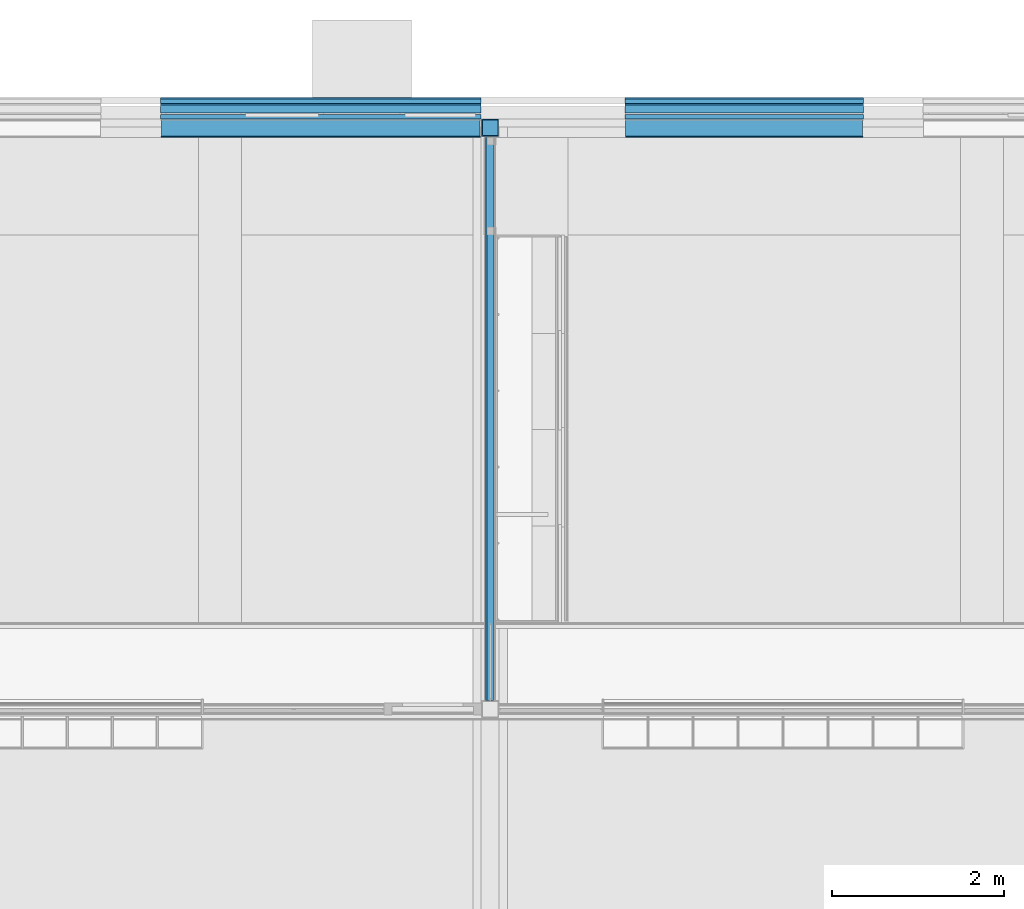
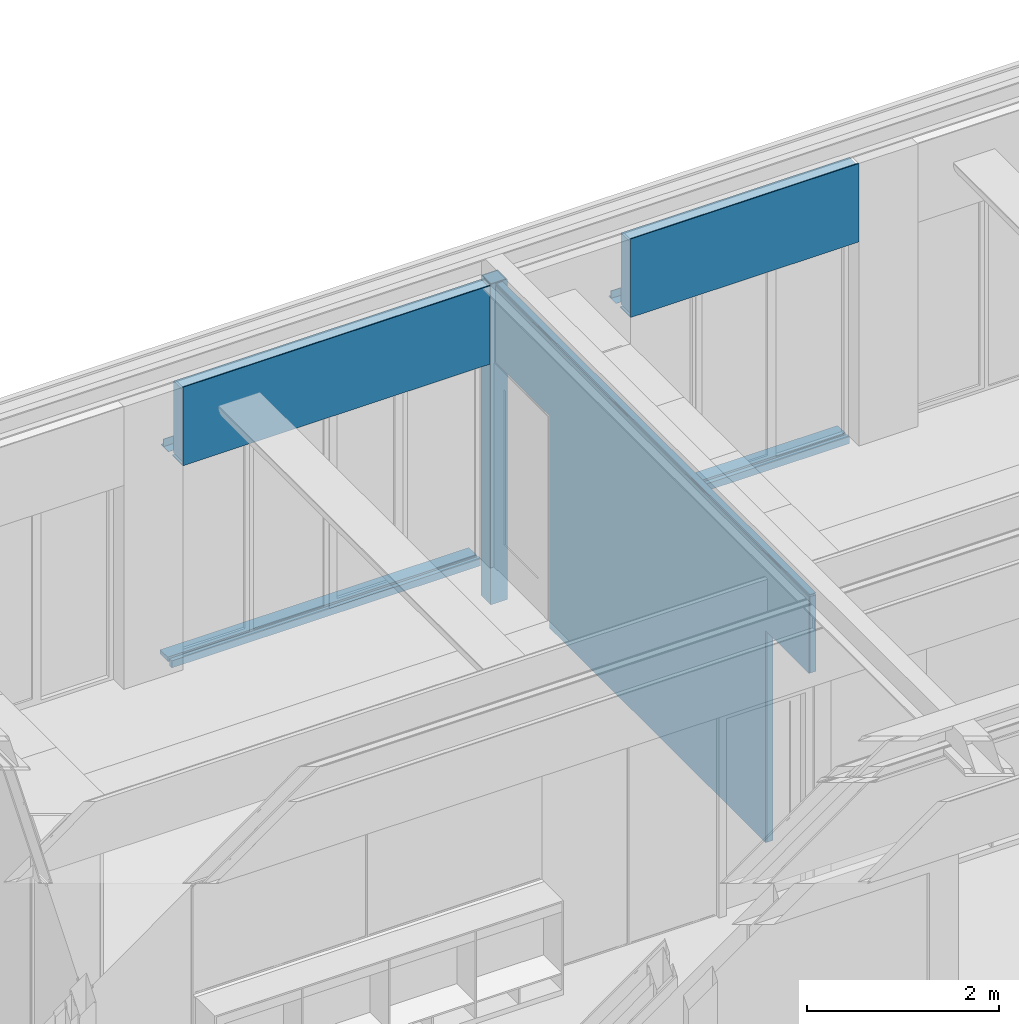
# One storey, part 96 of 165: 18 building element parts, 2 openings, 8 elements without a shape of their own.
"""IFC2X3 building model written with IfcOpenShell, lengths in millimetres."""

import ifcopenshell
import ifcopenshell.guid

model = None  # the IFC model being written
_history = None  # IfcOwnerHistory: only IFC2X3 demands one
_inside = {}  # id of a spatial element -> (the spatial element, [elements in it])
_under = {}  # id of a project, library or spatial element -> (it, [spatial elements below it])
_declared = {}  # id of a project -> (the project, [libraries it declares])
_typed = {}  # id of a type object -> (the type object, [elements of that type])
_made_of = {}  # id of a material, layer set ... -> (it, [elements and type objects made of it])


def new_model(schema):
    """Start an empty IFC model of exactly this schema.

    Asked for "IFC4X3", IfcOpenShell would pick the latest addendum, in which some entities
    have other attributes; the version numbers below select the first issue.
    IFC2X3 requires an IfcOwnerHistory on every rooted entity: one is made here for all.
    """
    global model, _history
    if schema == "IFC4X3":
        model = ifcopenshell.file(schema_version=(4, 3, 0, 0))
    else:
        model = ifcopenshell.file(schema=schema)
    _inside.clear()
    _under.clear()
    _declared.clear()
    _typed.clear()
    _made_of.clear()
    _history = None
    if model.schema == "IFC2X3":
        org = make("IfcOrganization", Name="unknown")
        user = make(
            "IfcPersonAndOrganization",
            ThePerson=make("IfcPerson", FamilyName="unknown"),
            TheOrganization=org,
        )
        app = make(
            "IfcApplication",
            ApplicationDeveloper=org,
            Version="unknown",
            ApplicationFullName="unknown",
            ApplicationIdentifier="unknown",
        )
        _history = make(
            "IfcOwnerHistory",
            OwningUser=user,
            OwningApplication=app,
            ChangeAction="ADDED",
            CreationDate=0,
        )
    return model


def make(cls, **values):
    """One entity of the class cls with the attributes given. An attribute that is None is left unset."""
    return model.create_entity(
        cls, **{name: value for name, value in values.items() if value is not None}
    )


def entity(cls, *values):
    """Any entity or typed value of the class cls, its attributes in the order of the schema. None: left unset."""
    e = model.create_entity(cls)
    for i, value in enumerate(values):
        if value is not None:
            e[i] = value
    return e


def rooted(cls, **values):
    """An entity with a GlobalId (a new one), such as an element, a storey or a relation."""
    return make(cls, GlobalId=ifcopenshell.guid.new(), OwnerHistory=_history, **values)


def si_unit(unit_type, name, prefix=None):
    """IfcSIUnit, for example si_unit("LENGTHUNIT", "METRE", prefix="MILLI")."""
    return make("IfcSIUnit", UnitType=unit_type, Prefix=prefix, Name=name)


def converted_unit(unit_type, name, factor, base, dimensions=None, offset=None):
    """IfcConversionBasedUnit, such as the inch: factor (a typed value) times the base unit."""
    return make(
        "IfcConversionBasedUnit"
        if offset is None
        else "IfcConversionBasedUnitWithOffset",
        ConversionOffset=offset,
        Dimensions=None
        if dimensions is None
        else entity("IfcDimensionalExponents", *dimensions),
        UnitType=unit_type,
        Name=name,
        ConversionFactor=make(
            "IfcMeasureWithUnit", ValueComponent=factor, UnitComponent=base
        ),
    )


def derived_unit(unit_type, elements):
    """IfcDerivedUnit: a product of units, each with its exponent."""
    return make(
        "IfcDerivedUnit",
        Elements=[
            make("IfcDerivedUnitElement", Unit=unit, Exponent=power)
            for unit, power in elements
        ],
        UnitType=unit_type,
    )


def money_unit(currency):
    """IfcMonetaryUnit."""
    return make("IfcMonetaryUnit", Currency=currency)


def assignment(units):
    """IfcUnitAssignment: the units of a project."""
    return None if units is None else make("IfcUnitAssignment", Units=units)


def point(xyz):
    """IfcCartesianPoint."""
    return None if xyz is None else make("IfcCartesianPoint", Coordinates=xyz)


def direction(xyz):
    """IfcDirection."""
    return None if xyz is None else make("IfcDirection", DirectionRatios=xyz)


def frame(location, z_axis=None, x_axis=None):
    """IfcAxis2Placement3D, a coordinate frame: its origin and axes. An axis left out is left unset."""
    return make(
        "IfcAxis2Placement3D",
        Location=point(location),
        Axis=direction(z_axis),
        RefDirection=direction(x_axis),
    )


def origin_with_axes():
    """The frame at (0, 0, 0) with the z axis (0, 0, 1) and the x axis (1, 0, 0) written out."""
    return frame((0.0, 0.0, 0.0), z_axis=(0.0, 0.0, 1.0), x_axis=(1.0, 0.0, 0.0))


def place(relative_to, where):
    """IfcLocalPlacement: puts the frame where relative to a parent placement (None: the world)."""
    return make(
        "IfcLocalPlacement", PlacementRelTo=relative_to, RelativePlacement=where
    )


def context(
    kind, dimensions, precision=None, world=None, true_north=None, identifier=None
):
    """IfcGeometricRepresentationContext, for example the 3D "Model" context."""
    return make(
        "IfcGeometricRepresentationContext",
        ContextIdentifier=identifier,
        ContextType=kind,
        CoordinateSpaceDimension=dimensions,
        Precision=precision,
        WorldCoordinateSystem=world,
        TrueNorth=true_north,
    )


def subcontext(parent, identifier, kind, view, scale=None):
    """IfcGeometricRepresentationSubContext, for example "Body" below "Model"."""
    return make(
        "IfcGeometricRepresentationSubContext",
        ContextIdentifier=identifier,
        ContextType=kind,
        ParentContext=parent,
        TargetScale=scale,
        TargetView=view,
    )


def project(units=None, contexts=None):
    """IfcProject with its units and contexts."""
    return rooted(
        "IfcProject",
        Name="project",
        RepresentationContexts=contexts,
        UnitsInContext=assignment(units),
    )


def spatial(cls, under=None, at=None, **own):
    """A site, building, storey or space (cls), placed at a placement, below another one or the project."""
    s = rooted(cls, ObjectPlacement=at, **own)
    if under is not None:
        _under.setdefault(under.id(), (under, []))[1].append(s)
    return s


def faces_of(points, faces, orient=None, outer=None):
    """IfcFace entities. A face is a list of loops; a loop is a list of indices into points, from 0.

    orient and outer hold one flag for each loop. By default every Orientation is true, the
    first loop of a face is its IfcFaceOuterBound and the others are IfcFaceBound.
    """
    made = []
    for i, loops in enumerate(faces):
        bounds = []
        for j, loop in enumerate(loops):
            is_outer = j == 0 if outer is None else outer[i][j]
            bounds.append(
                make(
                    "IfcFaceOuterBound" if is_outer else "IfcFaceBound",
                    Bound=make("IfcPolyLoop", Polygon=[points[k] for k in loop]),
                    Orientation=True if orient is None else orient[i][j],
                )
            )
        made.append(make("IfcFace", Bounds=bounds))
    return made


def faceted_brep(points, faces, orient=None, outer=None, voids=None):
    """IfcFacetedBrep: a solid bounded by flat faces; with voids (closed shells), ...WithVoids."""
    shared = [point(p) for p in points]
    hull = make("IfcClosedShell", CfsFaces=faces_of(shared, faces, orient, outer))
    if voids is None:
        return make("IfcFacetedBrep", Outer=hull)
    return make(
        "IfcFacetedBrepWithVoids",
        Outer=hull,
        Voids=[
            make(cls, CfsFaces=faces_of(shared, fs, o, b)) for cls, fs, o, b in voids
        ],
    )


def shape(context_of_items, identifier, shape_type, items):
    """IfcShapeRepresentation: the items that make up one representation, for example the "Body"."""
    return make(
        "IfcShapeRepresentation",
        ContextOfItems=context_of_items,
        RepresentationIdentifier=identifier,
        RepresentationType=shape_type,
        Items=items,
    )


def material(Name=None, Category=None):
    """IfcMaterial."""
    return make("IfcMaterial", Name=Name, Category=Category)


def made_of(thing, what):
    """Note that an element or type object is made of a material, layer set ...; save() writes the relation."""
    if what is not None:
        _made_of.setdefault(what.id(), (what, []))[1].append(thing)
    return thing


def type_object(cls, material=None, **own):
    """A type object (cls), such as IfcWallType, which elements share."""
    return made_of(rooted(cls, **own), material)


def element(
    cls,
    number,
    at=None,
    inside=None,
    cuts=None,
    type_object=None,
    material=None,
    context=None,
    identifier="Body",
    shape_type=None,
    held_by="IfcProductDefinitionShape",
    body=None,
    shapes=None,
    **own,
):
    """One element of the class cls, such as IfcWall. Its Tag is "e" and its number.

    at: its placement. inside: the storey or other place that contains it. cuts: it is an
    opening in that element (IfcRelVoidsElement). A single representation is given by context,
    identifier, shape_type and body (its items); several are given by shapes. held_by: the class
    of the entity that holds the representations. save() writes the other relations.
    """
    e = rooted(cls, Tag="e%d" % number, ObjectPlacement=at, **own)
    if body is not None:
        shapes = [shape(context, identifier, shape_type, body)]
    if shapes is not None:
        e.Representation = make(held_by, Representations=shapes)
    if inside is not None:
        _inside.setdefault(inside.id(), (inside, []))[1].append(e)
    if cuts is not None:
        rooted(
            "IfcRelVoidsElement", RelatingBuildingElement=cuts, RelatedOpeningElement=e
        )
    if type_object is not None:
        _typed.setdefault(type_object.id(), (type_object, []))[1].append(e)
    return made_of(e, material)


def aggregate(whole, parts):
    """IfcRelAggregates: a whole, such as a stair, and the parts it consists of."""
    return rooted("IfcRelAggregates", RelatingObject=whole, RelatedObjects=parts)


def save(model, path):
    """Write the relations noted so far, then the file.

    IfcRelAggregates (storeys below a building ...), IfcRelContainedInSpatialStructure (elements
    in a storey), IfcRelDefinesByType, IfcRelAssociatesMaterial and IfcRelDeclares: one each for
    every whole, place, type object, material and project.
    """
    for whole, parts in _under.values():
        aggregate(whole, parts)
    for where, things in _inside.values():
        rooted(
            "IfcRelContainedInSpatialStructure",
            RelatedElements=things,
            RelatingStructure=where,
        )
    for kind, things in _typed.values():
        rooted("IfcRelDefinesByType", RelatedObjects=things, RelatingType=kind)
    for what, things in _made_of.values():
        rooted("IfcRelAssociatesMaterial", RelatedObjects=things, RelatingMaterial=what)
    for by, libraries in _declared.values():
        rooted("IfcRelDeclares", RelatingContext=by, RelatedDefinitions=libraries)
    model.write(path)


model = new_model("IFC2X3")

# Units and contexts
model_context = context("Model", 3, precision=0.01, world=origin_with_axes(), true_north=direction((0.0, 1.0)))
body_context = subcontext(model_context, "Body", "Model", "MODEL_VIEW")
ifc_project = project(units=[si_unit("LENGTHUNIT", "METRE", prefix="MILLI"), si_unit("AREAUNIT", "SQUARE_METRE"), si_unit("VOLUMEUNIT", "CUBIC_METRE"), converted_unit("PLANEANGLEUNIT", "DEGREE", entity("IfcPlaneAngleMeasure", 0.0174532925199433), si_unit("PLANEANGLEUNIT", "RADIAN"), dimensions=[0, 0, 0, 0, 0, 0, 0]), money_unit("EUR"), converted_unit("TIMEUNIT", "Year", entity("IfcTimeMeasure", 31556926.0), si_unit("TIMEUNIT", "SECOND"), dimensions=[0, 0, 1, 0, 0, 0, 0]), si_unit("MASSUNIT", "GRAM", prefix="KILO"), si_unit("THERMODYNAMICTEMPERATUREUNIT", "DEGREE_CELSIUS"), si_unit("LUMINOUSINTENSITYUNIT", "LUMEN"), si_unit("ENERGYUNIT", "JOULE", prefix="MEGA"), derived_unit("THERMALCONDUCTANCEUNIT", [(si_unit("POWERUNIT", "WATT"), 1), (si_unit("LENGTHUNIT", "METRE"), -1), (si_unit("THERMODYNAMICTEMPERATUREUNIT", "KELVIN"), -1)]), derived_unit("SPECIFICHEATCAPACITYUNIT", [(si_unit("ENERGYUNIT", "JOULE"), 1), (si_unit("MASSUNIT", "GRAM", prefix="KILO"), -1), (si_unit("THERMODYNAMICTEMPERATUREUNIT", "KELVIN"), -1)]), derived_unit("MASSDENSITYUNIT", [(si_unit("MASSUNIT", "GRAM", prefix="KILO"), 1), (si_unit("VOLUMEUNIT", "CUBIC_METRE"), -1)])], contexts=[model_context])

# Site, building, storey
site_placement = place(None, origin_with_axes())
site = spatial("IfcSite", under=ifc_project, at=site_placement, Name="Site", CompositionType="ELEMENT")
building_placement = place(site_placement, origin_with_axes())
building = spatial("IfcBuilding", under=site, at=building_placement, Name="Naam gebouw", CompositionType="ELEMENT")
storey_placement = place(building_placement, origin_with_axes())
storey = spatial("IfcBuildingStorey", under=building, at=storey_placement, Name="Begane grond", CompositionType="ELEMENT", Elevation=0.0)

# Proxy, openings, building element parts
building_element_proxy_type = type_object("IfcBuildingElementProxyType", Name="22 Metal stud 125 gips 125", PredefinedType="NOTDEFINED")
proxy_placement = place(storey_placement, frame((17699.99942456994, 29175.0, -100.0), z_axis=(0.0, 0.0, 1.0), x_axis=(0.0, -1.0, 0.0)))
proxy = element("IfcBuildingElementProxy", 1, at=proxy_placement, inside=storey, type_object=building_element_proxy_type, Name="_Wand-x")
opening_1_placement = place(proxy_placement, frame((778.9999999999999, 0.0, 100.0), z_axis=(0.0, 0.0, 1.0), x_axis=(1.0, 0.0, 0.0)))
element("IfcOpeningElement", 2, at=opening_1_placement, cuts=proxy, Name="_01.01", context=body_context, shape_type="Brep", body=[
    faceted_brep([(565.0000000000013, 63.50000000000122, 2600.0), (565.0000000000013, 63.50000000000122, -100.0000000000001), (-565.0000000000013, 63.50000000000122, -100.0000000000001), (-565.0000000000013, 63.50000000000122, 2600.0), (565.0000000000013, -63.50000000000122, 2600.0), (565.0000000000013, -63.50000000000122, -100.0000000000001), (-565.0000000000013, -63.50000000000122, -100.0000000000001), (-565.0000000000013, -63.50000000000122, 2600.0)], [[[0, 1, 2, 3]], [[4, 5, 1, 0]], [[5, 6, 2, 1]], [[6, 7, 3, 2]], [[7, 4, 0, 3]], [[6, 5, 4, 7]]]),
])
opening_2_placement = place(proxy_placement, frame((6300.00015292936, 0.0, 100.0), z_axis=(0.0, 0.0, 1.0), x_axis=(1.0, 0.0, 0.0)))
element("IfcOpeningElement", 3, at=opening_2_placement, cuts=proxy, Name="_B.02", context=body_context, shape_type="Brep", body=[
    faceted_brep([(-449.9999999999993, 12.49999999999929, -100.0000000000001), (-449.9999999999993, 12.49999999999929, 2600.0), (-449.9999999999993, 63.50000000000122, 2600.0), (-449.9999999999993, 63.50000000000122, -100.0000000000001), (-449.9999999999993, -63.50000000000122, -100.0000000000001), (-449.9999999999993, -63.50000000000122, 2600.0), (449.9999999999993, 12.49999999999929, 2600.0), (449.9999999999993, 63.50000000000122, 2600.0), (449.9999999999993, -63.50000000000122, 2600.0), (449.9999999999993, 63.50000000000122, -100.0000000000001), (449.9999999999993, 12.49999999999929, -100.0000000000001), (449.9999999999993, -63.50000000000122, -100.0000000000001)], [[[0, 1, 2, 3]], [[1, 0, 4, 5]], [[6, 7, 2, 1, 5, 8]], [[7, 9, 3, 2]], [[0, 3, 9, 10, 11, 4]], [[5, 4, 11, 8]], [[6, 10, 9, 7]], [[10, 6, 8, 11]]]),
])
ifc_material_1 = material(Name="Gipsplaat")
building_element_part_1_placement = place(proxy_placement, origin_with_axes())
building_element_part_1 = element("IfcBuildingElementPart", 4, at=building_element_part_1_placement, material=ifc_material_1, Name="Gipsplaat", context=body_context, shape_type="Brep", body=[
    faceted_brep([(1344.000000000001, -37.50000000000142, 0.0), (1344.000000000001, -37.50000000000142, 2700.0), (213.9999999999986, -37.50000000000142, 2700.0), (213.9999999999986, -37.50000000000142, 3675.000002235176), (6750.00015292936, -37.50000000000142, 3675.000002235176), (6750.00015292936, -37.50000000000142, 2700.0), (5850.000152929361, -37.50000000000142, 2700.0), (5850.000152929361, -37.50000000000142, 0.0), (1344.000000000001, -50.00000000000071, 0.0), (1344.000000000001, -50.00000000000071, 2700.0), (213.9999999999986, -50.00000000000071, 2700.0), (213.9999999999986, -50.00000000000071, 3675.000002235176), (6750.00015292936, -50.00000000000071, 3675.000002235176), (6750.00015292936, -50.00000000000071, 2700.0), (5850.000152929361, -50.00000000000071, 2700.0), (5850.000152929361, -50.00000000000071, 0.0)], [[[0, 1, 2, 3, 4, 5, 6, 7]], [[1, 0, 8, 9]], [[10, 2, 1, 9]], [[2, 10, 11, 3]], [[3, 11, 12, 4]], [[5, 4, 12, 13]], [[5, 13, 14, 6]], [[6, 14, 15, 7]], [[8, 0, 7, 15]], [[9, 8, 15, 14, 13, 12, 11, 10]]]),
    faceted_brep([(6750.00015292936, -50.00000000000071, 3699.999999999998), (6750.00015292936, -37.50000000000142, 3699.999999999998), (213.9999999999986, -37.50000000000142, 3700.0), (213.9999999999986, -50.00000000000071, 3700.0), (6750.00015292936, -37.50000000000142, 3695.000002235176), (6750.00015292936, -50.00000000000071, 3695.000002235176), (213.9999999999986, -37.50000000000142, 3695.000002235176), (213.9999999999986, -50.00000000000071, 3695.000002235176)], [[[0, 1, 2, 3]], [[4, 1, 0, 5]], [[1, 4, 6, 2]], [[2, 6, 7, 3]], [[5, 0, 3, 7]], [[4, 5, 7, 6]]]),
])
ifc_material_2 = material(Name="ALG - LICHTE SCHEIDINGSWAND")
building_element_part_2_placement = place(proxy_placement, origin_with_axes())
building_element_part_2 = element("IfcBuildingElementPart", 5, at=building_element_part_2_placement, material=ifc_material_2, Name="ALG - LICHTE SCHEIDINGSWAND", context=body_context, shape_type="Brep", body=[
    faceted_brep([(1344.000000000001, 37.50000000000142, 0.0), (1344.000000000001, 37.50000000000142, 2700.0), (213.9999999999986, 37.50000000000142, 2700.0), (213.9999999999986, 37.50000000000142, 3675.000002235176), (6750.00015292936, 37.49999999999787, 3675.000002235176), (6750.00015292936, 37.49999999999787, 2700.0), (5850.000152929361, 37.49999999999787, 2700.0), (5850.000152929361, 37.49999999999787, 0.0), (1344.000000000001, -37.50000000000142, 0.0), (1344.000000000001, -37.50000000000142, 2700.0), (213.9999999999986, -37.50000000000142, 2700.0), (213.9999999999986, -37.50000000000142, 3675.000002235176), (6750.00015292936, -37.50000000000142, 3675.000002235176), (6750.00015292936, -37.50000000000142, 2700.0), (5850.000152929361, -37.50000000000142, 2700.0), (5850.000152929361, -37.50000000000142, 0.0)], [[[0, 1, 2, 3, 4, 5, 6, 7]], [[1, 0, 8, 9]], [[10, 2, 1, 9]], [[2, 10, 11, 3]], [[11, 12, 4, 3]], [[5, 4, 12, 13]], [[14, 6, 5, 13]], [[15, 7, 6, 14]], [[8, 0, 7, 15]], [[9, 8, 15, 14, 13, 12, 11, 10]]]),
    faceted_brep([(6750.00015292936, -37.50000000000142, 3699.999999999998), (6750.00015292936, 37.49999999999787, 3699.999999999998), (213.9999999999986, 37.50000000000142, 3700.0), (213.9999999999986, -37.50000000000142, 3700.0), (6750.00015292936, 37.49999999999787, 3695.000002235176), (6750.00015292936, -37.50000000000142, 3695.000002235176), (213.9999999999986, 37.50000000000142, 3695.000002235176), (213.9999999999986, -37.50000000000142, 3695.000002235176)], [[[0, 1, 2, 3]], [[4, 1, 0, 5]], [[1, 4, 6, 2]], [[2, 6, 7, 3]], [[5, 0, 3, 7]], [[4, 5, 7, 6]]]),
])
aggregate(proxy, [building_element_part_1, building_element_part_2])

# Column, building element parts
column_type = type_object("IfcColumnType", Name="200X200X10 200 x 200", PredefinedType="COLUMN")
column_placement = place(storey_placement, frame((17699.99942456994, 29075.0, -480.0), z_axis=(0.0, 0.0, 1.0), x_axis=(1.0, 0.0, 0.0)))
column = element("IfcColumn", 6, at=column_placement, inside=storey, type_object=column_type, Name="28_Kolom-x", ObjectType="COLUMN")
ifc_material_3 = material(Name="Beton gewapend C")
building_element_part_3_placement = place(column_placement, origin_with_axes())
building_element_part_3 = element("IfcBuildingElementPart", 7, at=building_element_part_3_placement, material=ifc_material_3, Name="Beton gewapend C", context=body_context, shape_type="Brep", body=[
    faceted_brep([(-89.99999999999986, 89.99999999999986, 4055.000002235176), (89.99999999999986, 89.99999999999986, 4055.000002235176), (89.99999999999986, 89.99999999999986, 0.0), (-89.99999999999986, 89.99999999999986, 0.0), (89.99999999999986, -89.99999999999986, 4055.000002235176), (-89.99999999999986, -89.99999999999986, 4055.000002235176), (89.99999999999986, -89.99999999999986, 0.0), (-89.99999999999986, -89.99999999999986, 0.0)], [[[0, 1, 2, 3]], [[4, 1, 0, 5]], [[1, 4, 6, 2]], [[2, 6, 7, 3]], [[5, 0, 3, 7]], [[4, 5, 7, 6]]]),
    faceted_brep([(89.99999999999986, -89.99999999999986, 4075.000002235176), (89.99999999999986, 89.99999999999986, 4075.000002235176), (89.99999999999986, 89.99999999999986, 4079.999999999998), (89.99999999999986, -89.99999999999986, 4079.999999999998), (-89.99999999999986, 89.99999999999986, 4075.000002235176), (-89.99999999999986, -89.99999999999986, 4075.000002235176), (-89.99999999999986, 89.99999999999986, 4079.999999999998), (-89.99999999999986, -89.99999999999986, 4079.999999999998)], [[[0, 1, 2, 3]], [[4, 1, 0, 5]], [[1, 4, 6, 2]], [[2, 6, 7, 3]], [[5, 0, 3, 7]], [[4, 5, 7, 6]]]),
])
ifc_material_4 = material(Name="Metaal - Staal C")
building_element_part_4_placement = place(column_placement, origin_with_axes())
building_element_part_4 = element("IfcBuildingElementPart", 8, at=building_element_part_4_placement, material=ifc_material_4, Name="Metaal - Staal C", context=body_context, shape_type="Brep", body=[
    faceted_brep([(-100.0000000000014, -100.0000000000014, 0.0), (100.0000000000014, -100.0000000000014, 0.0), (100.0000000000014, -100.0000000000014, 4079.999999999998), (-100.0000000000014, -100.0000000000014, 4079.999999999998), (-100.0000000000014, 100.0000000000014, 0.0), (100.0000000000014, 100.0000000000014, 0.0), (-89.99999999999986, -89.99999999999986, 0.0), (89.99999999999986, -89.99999999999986, 0.0), (89.99999999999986, 89.99999999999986, 0.0), (-89.99999999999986, 89.99999999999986, 0.0), (100.0000000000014, 100.0000000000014, 4079.999999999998), (-100.0000000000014, 100.0000000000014, 4079.999999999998), (-89.99999999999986, -89.99999999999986, 4079.999999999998), (-89.99999999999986, 89.99999999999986, 4079.999999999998), (89.99999999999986, 89.99999999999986, 4079.999999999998), (89.99999999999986, -89.99999999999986, 4079.999999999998)], [[[0, 1, 2, 3]], [[0, 4, 5, 1], [6, 7, 8, 9]], [[1, 5, 10, 2]], [[3, 2, 10, 11], [12, 13, 14, 15]], [[4, 0, 3, 11]], [[5, 4, 11, 10]], [[7, 6, 12, 15]], [[8, 7, 15, 14]], [[9, 8, 14, 13]], [[6, 9, 13, 12]]]),
])
aggregate(column, [building_element_part_3, building_element_part_4])

# Beam, building element parts
beam_type_1 = type_object("IfcBeamType", Name="41 Latei/geveldrager 158 x 112", PredefinedType="BEAM")
beam_1_placement = place(storey_placement, frame((19264.99942456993, 29355.0, 2610.0), z_axis=(0.0, 0.0, 1.0), x_axis=(0.0, -1.0, 0.0)))
beam_1 = element("IfcBeam", 9, at=beam_1_placement, inside=storey, type_object=beam_type_1, Name="_Regenwaterafvoer-x", ObjectType="BEAM")
building_element_part_5_placement = place(beam_1_placement, origin_with_axes())
building_element_part_5 = element("IfcBuildingElementPart", 10, at=building_element_part_5_placement, material=ifc_material_4, Name="Metaal - Staal C", context=body_context, shape_type="Brep", body=[
    faceted_brep([(3.000000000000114, 2770.0, -3.000000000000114), (108.0000000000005, 2770.0, -3.000000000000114), (108.0000000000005, 0.0, -3.000000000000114), (3.000000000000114, 0.0, -3.000000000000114), (3.000000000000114, 2770.0, 0.0), (108.0000000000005, 2770.0, 0.0), (108.0000000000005, 0.0, 0.0), (3.000000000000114, 0.0, 0.0)], [[[0, 1, 2, 3]], [[0, 4, 5, 1]], [[1, 5, 6, 2]], [[3, 2, 6, 7]], [[4, 0, 3, 7]], [[5, 4, 7, 6]]]),
])
building_element_part_6_placement = place(beam_1_placement, origin_with_axes())
building_element_part_6 = element("IfcBuildingElementPart", 11, at=building_element_part_6_placement, material=ifc_material_4, Name="Metaal - Staal C", context=body_context, shape_type="Brep", body=[
    faceted_brep([(-50.00000000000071, 2770.0, 6.55651533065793e-07), (-50.00000000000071, 2770.0, -3.000000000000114), (-50.00000000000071, 0.0, -3.000000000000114), (-50.00000000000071, 0.0, 6.55651533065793e-07), (-5.9603877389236e-08, 2770.0, 6.55651533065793e-07), (-5.9603877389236e-08, 2770.0, 99.3417707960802), (16.54654975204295, 2770.0, 108.894926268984), (18.04655007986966, 2770.0, 106.296849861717), (3.000000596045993, 2770.0, 96.99999988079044), (3.000000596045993, 2770.0, 6.55651533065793e-07), (3.000000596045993, 2770.0, -3.000000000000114), (3.000000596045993, 0.0, -3.000000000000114), (3.000000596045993, 0.0, 6.55651533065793e-07), (3.000000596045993, 0.0, 96.99999988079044), (18.04655007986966, 0.0, 106.296849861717), (16.54654975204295, 0.0, 108.894926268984), (-5.9603877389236e-08, 0.0, 99.3417707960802), (-5.9603877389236e-08, 0.0, 6.55651533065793e-07)], [[[0, 1, 2, 3]], [[0, 4, 5, 6, 7, 8, 9, 10, 1]], [[1, 10, 11, 2]], [[3, 2, 11, 12, 13, 14, 15, 16, 17]], [[4, 0, 3, 17]], [[5, 4, 17, 16]], [[6, 5, 16, 15]], [[7, 6, 15, 14]], [[8, 7, 14, 13]], [[9, 8, 13, 12]], [[10, 9, 12, 11]]]),
])
aggregate(beam_1, [building_element_part_5, building_element_part_6])

beam_type_2 = type_object("IfcBeamType", Name="31 Betondorpel 250 x 90", PredefinedType="BEAM")
beam_2_placement = place(storey_placement, frame((19264.99942456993, 29425.0, -100.0000000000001), z_axis=(0.0, 0.0, 1.0), x_axis=(0.0, -1.0, 0.0)))
beam_2 = element("IfcBeam", 12, at=beam_2_placement, inside=storey, type_object=beam_type_2, Name="_Regenwaterafvoer-x", ObjectType="BEAM")
ifc_material_5 = material(Name="Beton gewapend prefab")
building_element_part_7_placement = place(beam_2_placement, origin_with_axes())
building_element_part_7 = element("IfcBuildingElementPart", 13, at=building_element_part_7_placement, material=ifc_material_5, Name="Beton gewapend prefab", context=body_context, shape_type="Brep", body=[
    faceted_brep([(0.0, 2770.0, 30.04212834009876), (169.9999999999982, 2770.0, 30.04212834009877), (170.0000000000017, 0.0, 30.04212834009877), (0.0, 0.0, 30.04212834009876), (0.0, 2770.0, 80.04212834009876), (169.9999999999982, 2770.0, 90.04212834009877), (169.9999999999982, 2770.0, 90.00000000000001), (170.0000000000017, 0.0, 90.00000000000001), (170.0000000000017, 0.0, 90.04212834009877), (0.0, 0.0, 80.04212834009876)], [[[0, 1, 2, 3]], [[0, 4, 5, 6, 1]], [[1, 6, 7, 2]], [[3, 2, 7, 8, 9]], [[4, 0, 3, 9]], [[5, 4, 9, 8]], [[6, 5, 8, 7]]]),
])
ifc_material_6 = material(Name="Isolatie - Kunststof hard")
building_element_part_8_placement = place(beam_2_placement, origin_with_axes())
building_element_part_8 = element("IfcBuildingElementPart", 14, at=building_element_part_8_placement, material=ifc_material_6, Name="Isolatie - Kunststof hard", context=body_context, shape_type="Brep", body=[
    faceted_brep([(199.9999999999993, 2770.0, 0.0), (250.0, 2770.0, 0.0), (250.0, 0.0, 0.0), (199.9999999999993, 0.0, 0.0), (199.9999999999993, 2770.0, 30.04212815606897), (199.9999999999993, 2770.0, 90.00000000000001), (250.0, 2770.0, 90.00000000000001), (250.0, 0.0, 90.00000000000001), (199.9999999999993, 0.0, 90.00000000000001), (199.9999999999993, 0.0, 30.04212815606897)], [[[0, 1, 2, 3]], [[0, 4, 5, 6, 1]], [[1, 6, 7, 2]], [[3, 2, 7, 8, 9]], [[4, 0, 3, 9]], [[5, 4, 9, 8]], [[6, 5, 8, 7]]]),
])
aggregate(beam_2, [building_element_part_7, building_element_part_8])

beam_3_placement = place(storey_placement, frame((13874.99942456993, 29425.0, -100.0000000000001), z_axis=(0.0, 0.0, 1.0), x_axis=(0.0, -1.0, 0.0)))
beam_3 = element("IfcBeam", 15, at=beam_3_placement, inside=storey, type_object=beam_type_2, Name="_Regenwaterafvoer-x", ObjectType="BEAM")
building_element_part_9_placement = place(beam_3_placement, origin_with_axes())
building_element_part_9 = element("IfcBuildingElementPart", 16, at=building_element_part_9_placement, material=ifc_material_6, Name="Isolatie - Kunststof hard", context=body_context, shape_type="Brep", body=[
    faceted_brep([(199.9999999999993, 3720.000000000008, 0.0), (250.0, 3720.000000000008, 0.0), (250.0, 0.0, 0.0), (199.9999999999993, 0.0, 0.0), (199.9999999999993, 3720.000000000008, 30.04212815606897), (199.9999999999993, 3720.000000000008, 90.00000000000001), (250.0, 3720.000000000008, 90.00000000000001), (250.0, 0.0, 90.00000000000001), (199.9999999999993, 0.0, 90.00000000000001), (199.9999999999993, 0.0, 30.04212815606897)], [[[0, 1, 2, 3]], [[0, 4, 5, 6, 1]], [[1, 6, 7, 2]], [[3, 2, 7, 8, 9]], [[4, 0, 3, 9]], [[5, 4, 9, 8]], [[6, 5, 8, 7]]]),
])
building_element_part_10_placement = place(beam_3_placement, origin_with_axes())
building_element_part_10 = element("IfcBuildingElementPart", 17, at=building_element_part_10_placement, material=ifc_material_5, Name="Beton gewapend prefab", context=body_context, shape_type="Brep", body=[
    faceted_brep([(0.0, 3720.000000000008, 30.04212834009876), (169.9999999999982, 3720.000000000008, 30.04212834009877), (170.0000000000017, 0.0, 30.04212834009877), (0.0, 0.0, 30.04212834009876), (0.0, 3720.000000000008, 80.04212834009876), (169.9999999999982, 3720.000000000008, 90.04212834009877), (169.9999999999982, 3720.000000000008, 90.00000000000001), (170.0000000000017, 0.0, 90.00000000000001), (170.0000000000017, 0.0, 90.04212834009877), (0.0, 0.0, 80.04212834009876)], [[[0, 1, 2, 3]], [[0, 4, 5, 6, 1]], [[1, 6, 7, 2]], [[3, 2, 7, 8, 9]], [[4, 0, 3, 9]], [[5, 4, 9, 8]], [[6, 5, 8, 7]]]),
])
aggregate(beam_3, [building_element_part_9, building_element_part_10])

beam_4_placement = place(storey_placement, frame((13874.99942456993, 29355.00000286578, 2610.0), z_axis=(0.0, 0.0, 1.0), x_axis=(0.0, -1.0, 0.0)))
beam_4 = element("IfcBeam", 18, at=beam_4_placement, inside=storey, type_object=beam_type_1, Name="_Regenwaterafvoer-x", ObjectType="BEAM")
building_element_part_11_placement = place(beam_4_placement, origin_with_axes())
building_element_part_11 = element("IfcBuildingElementPart", 19, at=building_element_part_11_placement, material=ifc_material_4, Name="Metaal - Staal C", context=body_context, shape_type="Brep", body=[
    faceted_brep([(-50.00000000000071, 3720.000000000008, 6.55651533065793e-07), (-50.00000000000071, 3720.000000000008, -3.000000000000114), (-50.00000000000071, 0.0, -3.000000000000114), (-50.00000000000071, 0.0, 6.55651533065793e-07), (-5.9603877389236e-08, 3720.000000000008, 6.55651533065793e-07), (-5.9603877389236e-08, 3720.000000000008, 99.3417707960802), (16.54654975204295, 3720.000000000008, 108.894926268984), (18.04655007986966, 3720.000000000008, 106.296849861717), (3.000000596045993, 3720.000000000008, 96.99999988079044), (3.000000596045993, 3720.000000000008, 6.55651533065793e-07), (3.000000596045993, 3720.000000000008, -3.000000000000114), (3.000000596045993, 0.0, -3.000000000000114), (3.000000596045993, 0.0, 6.55651533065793e-07), (3.000000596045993, 0.0, 96.99999988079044), (18.04655007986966, 0.0, 106.296849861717), (16.54654975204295, 0.0, 108.894926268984), (-5.9603877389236e-08, 0.0, 99.3417707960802), (-5.9603877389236e-08, 0.0, 6.55651533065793e-07)], [[[0, 1, 2, 3]], [[0, 4, 5, 6, 7, 8, 9, 10, 1]], [[1, 10, 11, 2]], [[3, 2, 11, 12, 13, 14, 15, 16, 17]], [[4, 0, 3, 17]], [[5, 4, 17, 16]], [[6, 5, 16, 15]], [[7, 6, 15, 14]], [[8, 7, 14, 13]], [[9, 8, 13, 12]], [[10, 9, 12, 11]]]),
])
building_element_part_12_placement = place(beam_4_placement, origin_with_axes())
building_element_part_12 = element("IfcBuildingElementPart", 20, at=building_element_part_12_placement, material=ifc_material_4, Name="Metaal - Staal C", context=body_context, shape_type="Brep", body=[
    faceted_brep([(3.000000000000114, 3720.000000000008, -3.000000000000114), (108.0000000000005, 3720.000000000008, -3.000000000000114), (108.0000000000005, 0.0, -3.000000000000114), (3.000000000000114, 0.0, -3.000000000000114), (3.000000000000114, 3720.000000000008, 0.0), (108.0000000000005, 3720.000000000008, 0.0), (108.0000000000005, 0.0, 0.0), (3.000000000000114, 0.0, 0.0)], [[[0, 1, 2, 3]], [[0, 4, 5, 1]], [[1, 5, 6, 2]], [[3, 2, 6, 7]], [[4, 0, 3, 7]], [[5, 4, 7, 6]]]),
])
aggregate(beam_4, [building_element_part_11, building_element_part_12])

beam_type_3 = type_object("IfcBeamType", Name="31 HSB boven kozijnen 214 x 1000", PredefinedType="BEAM")
beam_5_placement = place(storey_placement, frame((13884.99942456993, 28961.0, 2600.000000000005), z_axis=(0.0, 0.0, 1.0), x_axis=(0.0, -1.0, 0.0)))
beam_5 = element("IfcBeam", 21, at=beam_5_placement, inside=storey, type_object=beam_type_3, Name="28_Balk-x", ObjectType="BEAM")
building_element_part_13_placement = place(beam_5_placement, origin_with_axes())
building_element_part_13 = element("IfcBuildingElementPart", 22, at=building_element_part_13_placement, material=ifc_material_1, Name="Gipsplaat", context=body_context, shape_type="Brep", body=[
    faceted_brep([(-11.99999661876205, 3700.000000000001, 0.0), (9.341707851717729e-06, 3700.000000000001, 0.0), (9.341711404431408e-06, 0.0, 0.0), (-11.99999661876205, 0.0, 0.0), (-11.99999661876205, 3700.000000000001, 999.9999999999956), (9.341711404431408e-06, 3700.000000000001, 999.9999999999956), (9.341711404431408e-06, 0.0, 999.9999999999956), (-11.9999966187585, 0.0, 999.9999999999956)], [[[0, 1, 2, 3]], [[0, 4, 5, 1]], [[1, 5, 6, 2]], [[3, 2, 6, 7]], [[4, 0, 3, 7]], [[5, 4, 7, 6]]]),
])
building_element_part_14_placement = place(beam_5_placement, origin_with_axes())
building_element_part_14 = element("IfcBuildingElementPart", 23, at=building_element_part_14_placement, material=ifc_material_1, Name="Gipsplaat", context=body_context, shape_type="Brep", body=[
    faceted_brep([(-214.0000025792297, 3700.000000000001, 12.00000596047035), (-214.0000025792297, 3700.000000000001, 0.0), (-214.0000025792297, 0.0, 0.0), (-214.0000025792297, 0.0, 12.00000596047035), (-11.99999661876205, 3700.000000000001, 12.00000596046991), (-11.99999661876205, 3700.000000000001, 0.0), (-11.99999661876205, 0.0, 0.0), (-11.99999661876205, 0.0, 12.00000596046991)], [[[0, 1, 2, 3]], [[0, 4, 5, 1]], [[1, 5, 6, 2]], [[3, 2, 6, 7]], [[4, 0, 3, 7]], [[5, 4, 7, 6]]]),
])

# Beam, building element part
beam_6_placement = place(storey_placement, frame((19274.99942456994, 28961.0, 2600.000000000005), z_axis=(0.0, 0.0, 1.0), x_axis=(0.0, -1.0, 0.0)))
beam_6 = element("IfcBeam", 24, at=beam_6_placement, inside=storey, type_object=beam_type_3, Name="28_Balk-x", ObjectType="BEAM")
building_element_part_15_placement = place(beam_6_placement, origin_with_axes())
building_element_part_15 = element("IfcBuildingElementPart", 25, at=building_element_part_15_placement, material=ifc_material_1, Name="Gipsplaat", context=body_context, shape_type="Brep", body=[
    faceted_brep([(-214.0000025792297, 2749.999999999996, 12.00000596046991), (-214.0000025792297, 2749.999999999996, 0.0), (-214.0000025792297, 0.0, 0.0), (-214.0000025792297, 0.0, 12.00000596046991), (-11.99999661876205, 2749.999999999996, 12.00000596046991), (-11.99999661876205, 2749.999999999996, 0.0), (-11.99999661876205, 0.0, 0.0), (-11.99999661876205, 0.0, 12.00000596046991)], [[[0, 1, 2, 3]], [[0, 4, 5, 1]], [[1, 5, 6, 2]], [[3, 2, 6, 7]], [[4, 0, 3, 7]], [[5, 4, 7, 6]]]),
])

# Building element part
ifc_material_7 = material(Name="ALG - ISOLATIE")
building_element_part_16_placement = place(beam_5_placement, origin_with_axes())
building_element_part_16 = element("IfcBuildingElementPart", 26, at=building_element_part_16_placement, material=ifc_material_7, Name="ALG - ISOLATIE", context=body_context, shape_type="Brep", body=[
    faceted_brep([(-12.00000000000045, 3700.000000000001, 49.99999999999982), (-12.00000000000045, 3700.000000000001, 961.9999999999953), (-12.00000000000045, 0.0, 961.9999999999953), (-12.00000000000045, 0.0, 49.99999999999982), (-196.0000000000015, 3700.000000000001, 49.99999999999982), (-196.0000000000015, 3700.000000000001, 961.9999999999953), (-195.999999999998, 0.0, 961.9999999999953), (-195.999999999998, 0.0, 49.99999999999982)], [[[0, 1, 2, 3]], [[0, 4, 5, 1]], [[1, 5, 6, 2]], [[3, 2, 6, 7]], [[4, 0, 3, 7]], [[5, 4, 7, 6]]]),
])

aggregate(beam_5, [building_element_part_13, building_element_part_14, building_element_part_16])

building_element_part_17_placement = place(beam_6_placement, origin_with_axes())
building_element_part_17 = element("IfcBuildingElementPart", 27, at=building_element_part_17_placement, material=ifc_material_7, Name="ALG - ISOLATIE", context=body_context, shape_type="Brep", body=[
    faceted_brep([(-12.00000000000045, 2749.999999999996, 49.99999999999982), (-12.00000000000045, 2749.999999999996, 961.9999999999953), (-12.00000000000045, 0.0, 961.9999999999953), (-12.00000000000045, 0.0, 49.99999999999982), (-196.0000000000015, 2749.999999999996, 49.99999999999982), (-196.0000000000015, 2749.999999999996, 961.9999999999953), (-196.0000000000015, 0.0, 961.9999999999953), (-195.999999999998, 0.0, 49.99999999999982)], [[[0, 1, 2, 3]], [[0, 4, 5, 1]], [[1, 5, 6, 2]], [[3, 2, 6, 7]], [[4, 0, 3, 7]], [[5, 4, 7, 6]]]),
])

building_element_part_18_placement = place(beam_6_placement, origin_with_axes())
building_element_part_18 = element("IfcBuildingElementPart", 28, at=building_element_part_18_placement, material=ifc_material_1, Name="Gipsplaat", context=body_context, shape_type="Brep", body=[
    faceted_brep([(-11.99999661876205, 2749.999999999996, 0.0), (9.341707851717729e-06, 2749.999999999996, 0.0), (9.341711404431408e-06, 0.0, 0.0), (-11.99999661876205, 0.0, 0.0), (-11.99999661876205, 2749.999999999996, 999.9999999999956), (9.341707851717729e-06, 2749.999999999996, 999.9999999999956), (9.341707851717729e-06, 0.0, 999.9999999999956), (-11.99999661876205, 0.0, 999.9999999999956)], [[[0, 1, 2, 3]], [[0, 4, 5, 1]], [[1, 5, 6, 2]], [[3, 2, 6, 7]], [[4, 0, 3, 7]], [[5, 4, 7, 6]]]),
])

aggregate(beam_6, [building_element_part_15, building_element_part_17, building_element_part_18])

save(model, "model.ifc")
